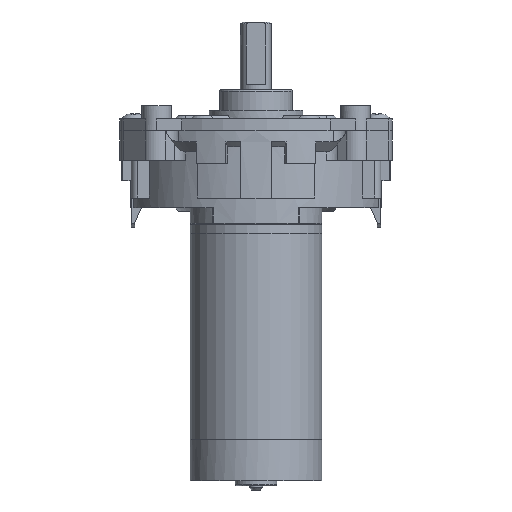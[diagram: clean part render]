
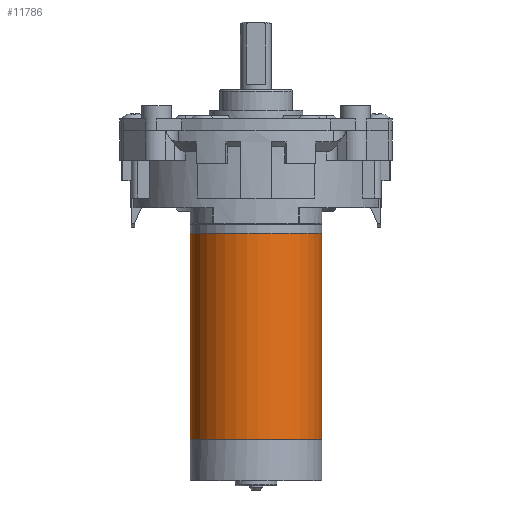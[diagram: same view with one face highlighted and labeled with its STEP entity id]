
A CAD part, front view. The second image highlights one B-rep face of the part: STEP entity #11786.
In plain terms, the highlighted cylindrical face has radius 20 mm (diameter 40 mm), a full revolution.
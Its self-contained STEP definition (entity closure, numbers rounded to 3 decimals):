
#745=FACE_BOUND('',#2586,.T.);
#943=CYLINDRICAL_SURFACE('',#13066,20.);
#1658=FACE_OUTER_BOUND('',#2585,.T.);
#2585=EDGE_LOOP('',(#10565));
#2586=EDGE_LOOP('',(#10566));
#4648=CIRCLE('',#13067,20.);
#4649=CIRCLE('',#13068,20.);
#5762=VERTEX_POINT('',#21981);
#5763=VERTEX_POINT('',#21983);
#7378=EDGE_CURVE('',#5762,#5762,#4648,.T.);
#7379=EDGE_CURVE('',#5763,#5763,#4649,.T.);
#10565=ORIENTED_EDGE('',*,*,#7378,.T.);
#10566=ORIENTED_EDGE('',*,*,#7379,.F.);
#11786=ADVANCED_FACE('',(#1658,#745),#943,.T.);
#13066=AXIS2_PLACEMENT_3D('',#21980,#16292,#16293);
#13067=AXIS2_PLACEMENT_3D('',#21982,#16294,#16295);
#13068=AXIS2_PLACEMENT_3D('',#21984,#16296,#16297);
#16292=DIRECTION('center_axis',(0.,0.,1.));
#16293=DIRECTION('ref_axis',(-1.,0.,0.));
#16294=DIRECTION('center_axis',(0.,0.,-1.));
#16295=DIRECTION('ref_axis',(-1.,0.,0.));
#16296=DIRECTION('center_axis',(0.,0.,-1.));
#16297=DIRECTION('ref_axis',(-1.,0.,0.));
#21980=CARTESIAN_POINT('Origin',(0.,0.,0.));
#21981=CARTESIAN_POINT('',(20.,0.,62.4));
#21982=CARTESIAN_POINT('Origin',(0.,0.,62.4));
#21983=CARTESIAN_POINT('',(20.,0.,0.));
#21984=CARTESIAN_POINT('Origin',(0.,0.,0.));
